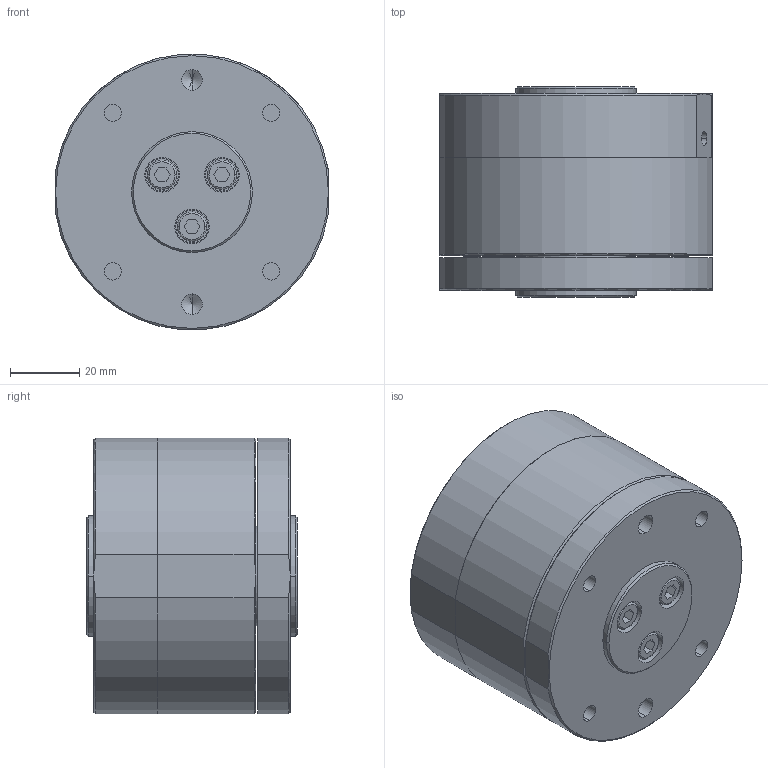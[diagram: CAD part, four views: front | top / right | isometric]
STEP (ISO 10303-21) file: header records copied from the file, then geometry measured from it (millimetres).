
FILE_DESCRIPTION (( 'STEP AP203' ), '1' );
FILE_NAME ('FCD-20RNC-2T-DDM.STEP', '2022-07-26T00:32:32', ( '' ), ( '' ), 'SwSTEP 2.0', 'SolidWorks 2021', '' );
FILE_SCHEMA (( 'CONFIG_CONTROL_DESIGN' ));
Length unit declared in the file: millimetre
Products named in the file (1): FCD-20RNC-2T-DDM
Bounding box: 79 x 61 x 79.76 mm (x, y, z)
Volume: 284016.8 mm3; surface area: 47151.1 mm2
Topology: 2 solids, 2 shells, 237 faces, 542 edges, 335 vertices
Faces by surface type: plane 101, cylinder 87, cone 31, torus 18
Entity records: 6652 total; most frequent: DIRECTION 1205, CARTESIAN_POINT 1139, ORIENTED_EDGE 1044, EDGE_CURVE 522, AXIS2_PLACEMENT_3D 459, VERTEX_POINT 335, EDGE_LOOP 291, LINE 287
